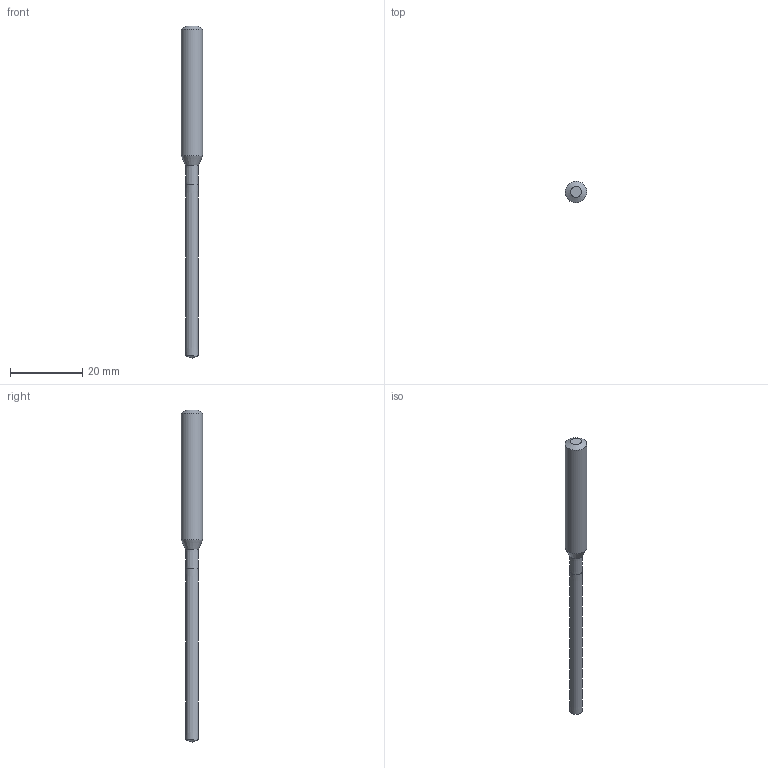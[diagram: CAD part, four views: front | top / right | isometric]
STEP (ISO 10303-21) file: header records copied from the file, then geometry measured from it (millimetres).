
FILE_DESCRIPTION(/* description */ (''),/* implementation_level */ '2;1');
FILE_NAME(/* name */ 'CAD_6618755_MOD_003_003_FR.stp',/* time_stamp */ '2014-06-14T09:05:53+02:00',/* author */ ('VR - Julian Pauli'),/* organization */ ('Walter AG'),/* preprocessor_version */ 'ST-DEVELOPER v11',/* originating_system */ 'SIEMENS UGS NX 6.0',/* authorisation */ '');
FILE_SCHEMA (('AUTOMOTIVE_DESIGN { 1 0 10303 214 1 1 1 1 }'));
Length unit declared in the file: millimetre
Products named in the file (1): DC150-6618755_simple
Bounding box: 5.98 x 5.98 x 92 mm (x, y, z)
Volume: 1594.3 mm3; surface area: 1364.5 mm2
Topology: 2 solids, 2 shells, 9 faces, 18 edges, 14 vertices
Faces by surface type: cone 5, plane 3, cylinder 1
Full cylindrical faces by diameter (mm): 6 x1
Entity records: 216 total; most frequent: DIRECTION 36, CARTESIAN_POINT 27, AXIS2_PLACEMENT_3D 17, EDGE_LOOP 14, ORIENTED_EDGE 14, FACE_BOUND 12, ADVANCED_FACE 9, VERTEX_POINT 8
